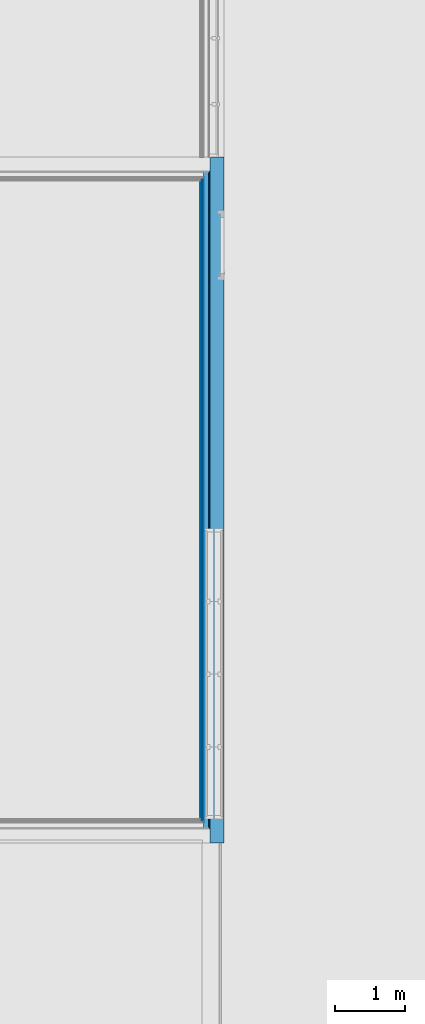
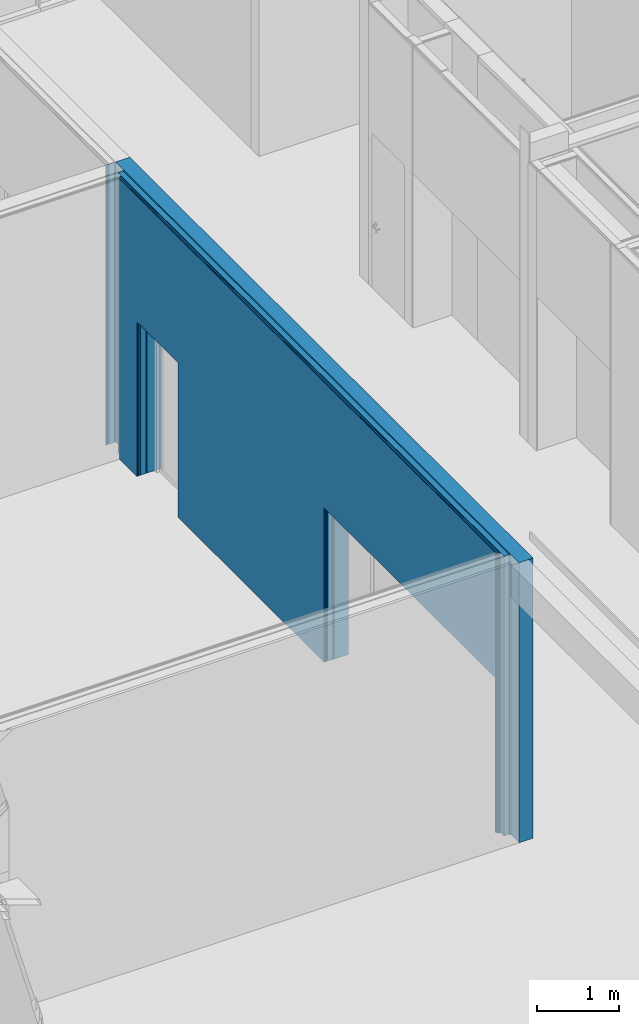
# One storey, part 170 of 260: 7 building element parts, 2 openings, 1 element without a shape of its own.
"""IFC2X3 building model written with IfcOpenShell, lengths in millimetres."""

from ifc_helpers import new_model, entity, si_unit, converted_unit, derived_unit, money_unit, direction, frame, origin_with_axes, place, context, subcontext, project, spatial, faceted_brep, material, type_object, element, aggregate, save


model = new_model("IFC2X3")

# Units and contexts
model_context = context("Model", 3, precision=0.01, world=origin_with_axes(), true_north=direction((0.0, 1.0)))
body_context = subcontext(model_context, "Body", "Model", "MODEL_VIEW")
ifc_project = project(units=[si_unit("LENGTHUNIT", "METRE", prefix="MILLI"), si_unit("AREAUNIT", "SQUARE_METRE"), si_unit("VOLUMEUNIT", "CUBIC_METRE"), converted_unit("PLANEANGLEUNIT", "DEGREE", entity("IfcPlaneAngleMeasure", 0.0174532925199), si_unit("PLANEANGLEUNIT", "RADIAN"), dimensions=[0, 0, 0, 0, 0, 0, 0]), money_unit("EUR"), converted_unit("TIMEUNIT", "Year", entity("IfcTimeMeasure", 31556926.0), si_unit("TIMEUNIT", "SECOND"), dimensions=[0, 0, 1, 0, 0, 0, 0]), si_unit("MASSUNIT", "GRAM", prefix="KILO"), si_unit("THERMODYNAMICTEMPERATUREUNIT", "DEGREE_CELSIUS"), si_unit("LUMINOUSINTENSITYUNIT", "LUMEN"), si_unit("ENERGYUNIT", "JOULE", prefix="MEGA"), derived_unit("THERMALCONDUCTANCEUNIT", [(si_unit("POWERUNIT", "WATT"), 1), (si_unit("LENGTHUNIT", "METRE"), -1), (si_unit("THERMODYNAMICTEMPERATUREUNIT", "KELVIN"), -1)]), derived_unit("SPECIFICHEATCAPACITYUNIT", [(si_unit("ENERGYUNIT", "JOULE"), 1), (si_unit("MASSUNIT", "GRAM", prefix="KILO"), -1), (si_unit("THERMODYNAMICTEMPERATUREUNIT", "KELVIN"), -1)]), derived_unit("MASSDENSITYUNIT", [(si_unit("MASSUNIT", "GRAM", prefix="KILO"), 1), (si_unit("VOLUMEUNIT", "CUBIC_METRE"), -1)])], contexts=[model_context])

# Site, building, storey
site_placement = place(None, origin_with_axes())
site = spatial("IfcSite", under=ifc_project, at=site_placement, Name="Kolde pst 67a", CompositionType="ELEMENT")
building_placement = place(site_placement, origin_with_axes())
building = spatial("IfcBuilding", under=site, at=building_placement, Name="Riigigümnaasium", CompositionType="ELEMENT")
storey_placement = place(building_placement, origin_with_axes())
storey = spatial("IfcBuildingStorey", under=building, at=storey_placement, Name="1. korrus", CompositionType="ELEMENT", Elevation=0.0)

# Wall, openings, building element parts
wall_type = type_object("IfcWallType", Name="SS-CLT-20/1_vill+krohv 340", PredefinedType="NOTDEFINED")
wall_placement = place(storey_placement, frame((31890.0027795, 38359.9808267, 0.0), z_axis=(0.0, 0.0, 1.0), x_axis=(0.0, 1.0, 0.0)))
wall = element("IfcWall", 1, at=wall_placement, inside=storey, type_object=wall_type, Name="Sisesein")
opening_1_placement = place(wall_placement, frame((2425.50014588, 0.0, 0.0), z_axis=(0.0, 0.0, 1.0), x_axis=(1.0, 0.0, 0.0)))
element("IfcOpeningElement", 2, at=opening_1_placement, cuts=wall, Name="Ava", context=body_context, shape_type="Brep", body=[
    faceted_brep([(2084.49985412, 340.0, 0.0), (2084.49985412, 340.0, 2300.0), (2084.49985412, -680.0, 2300.0), (2084.49985412, -680.0, 0.0), (-2084.49985412, 340.0, 0.0), (-2084.49985412, 340.0, 2300.0), (-2084.49985412, -680.0, 2300.0), (-2084.49985412, -680.0, 0.0)], [[[0, 1, 2, 3]], [[0, 4, 5, 1]], [[1, 5, 6, 2]], [[3, 2, 6, 7]], [[4, 0, 3, 7]], [[5, 4, 7, 6]]]),
])
opening_2_placement = place(wall_placement, frame((8574.9996972, 0.0, 0.0), z_axis=(0.0, 0.0, 1.0), x_axis=(1.0, 0.0, 0.0)))
element("IfcOpeningElement", 3, at=opening_2_placement, cuts=wall, Name="Siseuks", context=body_context, shape_type="Brep", body=[
    faceted_brep([(500.0, -680.0, 2300.0), (500.0, -680.0, 0.0), (500.0, 340.0, 0.0), (500.0, 340.0, 2300.0), (-500.0, -680.0, 2300.0), (-500.0, -680.0, 0.0), (-500.0, 340.0, 0.0), (-500.0, 340.0, 2300.0)], [[[0, 1, 2, 3]], [[0, 4, 5, 1]], [[1, 5, 6, 2]], [[3, 2, 6, 7]], [[4, 0, 3, 7]], [[5, 4, 7, 6]]]),
])
ifc_material_1 = material(Name="_VIIMISTLUSKIHT - viimistlus vastavalt SA osale")
building_element_part_1_placement = place(wall_placement, origin_with_axes())
building_element_part_1 = element("IfcBuildingElementPart", 4, at=building_element_part_1_placement, material=ifc_material_1, Name="_VIIMISTLUSKIHT - viimistlus vastavalt SA osale", context=body_context, shape_type="Brep", body=[
    faceted_brep([(8074.9996972, 330.0, 0.0), (8074.9996972, 330.0, 2300.0), (9074.9996972, 330.0, 2300.0), (9074.9996972, 330.0, 0.0), (9509.9996972, 330.0, 0.0), (9509.9996972, 330.0, 4170.0), (330.0, 330.0, 4170.0), (330.0, 330.0, 0.0), (341.000291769, 330.0, 0.0), (341.000291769, 330.0, 2300.0), (4510.0, 330.0, 2300.0), (4510.0, 330.0, 0.0), (8074.9996972, 340.0, 0.0), (8074.9996972, 340.0, 2300.0), (9074.9996972, 340.0, 2300.0), (9074.9996972, 340.0, 0.0), (9509.9996972, 340.0, 0.0), (9509.9996972, 340.0, 4170.0), (330.0, 340.0, 4170.0), (330.0, 340.0, 0.0), (341.000291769, 340.0, 0.0), (341.000291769, 340.0, 2300.0), (4510.0, 340.0, 2300.0), (4510.0, 340.0, 0.0)], [[[0, 1, 2, 3, 4, 5, 6, 7, 8, 9, 10, 11]], [[1, 0, 12, 13]], [[2, 1, 13, 14]], [[3, 2, 14, 15]], [[3, 15, 16, 4]], [[4, 16, 17, 5]], [[17, 18, 6, 5]], [[19, 7, 6, 18]], [[8, 7, 19, 20]], [[8, 20, 21, 9]], [[9, 21, 22, 10]], [[10, 22, 23, 11]], [[12, 0, 11, 23]], [[13, 12, 23, 22, 21, 20, 19, 18, 17, 16, 15, 14]]]),
    faceted_brep([(9841.46945648, 340.0, 4170.0), (9841.46945648, 330.0, 4170.0), (9841.46945648, 330.0, 0.0), (9841.46945648, 340.0, 0.0), (9839.9996972, 330.0, 4170.0), (9839.9996972, 340.0, 4170.0), (9839.9996972, 330.0, 0.0), (9839.9996972, 340.0, 0.0)], [[[0, 1, 2, 3]], [[4, 1, 0, 5]], [[1, 4, 6, 2]], [[2, 6, 7, 3]], [[5, 0, 3, 7]], [[4, 5, 7, 6]]]),
])
ifc_material_2 = material(Name="_PLAATMATERJAL - tuletõkkekipsplaat, Knauf Red GKF või samaväärne")
building_element_part_2_placement = place(wall_placement, origin_with_axes())
building_element_part_2 = element("IfcBuildingElementPart", 5, at=building_element_part_2_placement, material=ifc_material_2, Name="_PLAATMATERJAL - tuletõkkekipsplaat, Knauf Red GKF või samaväärne", context=body_context, shape_type="Brep", body=[
    faceted_brep([(8074.9996972, 315.0, 0.0), (8074.9996972, 315.0, 2300.0), (9074.9996972, 315.0, 2300.0), (9074.9996972, 315.0, 0.0), (9524.9996972, 315.0, 0.0), (9524.9996972, 315.0, 4170.0), (315.0, 315.0, 4170.0), (315.0, 315.0, 0.0), (341.000291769, 315.0, 0.0), (341.000291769, 315.0, 2300.0), (4510.0, 315.0, 2300.0), (4510.0, 315.0, 0.0), (8074.9996972, 330.0, 0.0), (8074.9996972, 330.0, 2300.0), (9074.9996972, 330.0, 2300.0), (9074.9996972, 330.0, 0.0), (9524.9996972, 330.0, 0.0), (9524.9996972, 330.0, 4170.0), (315.0, 330.0, 4170.0), (315.0, 330.0, 0.0), (341.000291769, 330.0, 0.0), (341.000291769, 330.0, 2300.0), (4510.0, 330.0, 2300.0), (4510.0, 330.0, 0.0)], [[[0, 1, 2, 3, 4, 5, 6, 7, 8, 9, 10, 11]], [[1, 0, 12, 13]], [[2, 1, 13, 14]], [[3, 2, 14, 15]], [[3, 15, 16, 4]], [[4, 16, 17, 5]], [[17, 18, 6, 5]], [[19, 7, 6, 18]], [[8, 7, 19, 20]], [[8, 20, 21, 9]], [[9, 21, 22, 10]], [[10, 22, 23, 11]], [[12, 0, 11, 23]], [[13, 12, 23, 22, 21, 20, 19, 18, 17, 16, 15, 14]]]),
    faceted_brep([(9841.46945648, 330.0, 4170.0), (9841.46945648, 315.0, 4170.0), (9841.46945648, 315.0, 0.0), (9841.46945648, 330.0, 0.0), (9839.9996972, 315.0, 4170.0), (9839.9996972, 330.0, 4170.0), (9839.9996972, 315.0, 0.0), (9839.9996972, 330.0, 0.0)], [[[0, 1, 2, 3]], [[4, 1, 0, 5]], [[1, 4, 6, 2]], [[2, 6, 7, 3]], [[5, 0, 3, 7]], [[4, 5, 7, 6]]]),
])
building_element_part_3_placement = place(wall_placement, origin_with_axes())
building_element_part_3 = element("IfcBuildingElementPart", 6, at=building_element_part_3_placement, material=ifc_material_2, Name="_PLAATMATERJAL - tuletõkkekipsplaat, Knauf Red GKF või samaväärne", context=body_context, shape_type="Brep", body=[
    faceted_brep([(8074.9996972, 300.0, 0.0), (8074.9996972, 300.0, 2300.0), (9074.9996972, 300.0, 2300.0), (9074.9996972, 300.0, 0.0), (9539.9996972, 300.0, 0.0), (9539.9996972, 300.0, 4170.0), (300.0, 300.0, 4170.0), (300.0, 300.0, 0.0), (341.000291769, 300.0, 0.0), (341.000291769, 300.0, 2300.0), (4510.0, 300.0, 2300.0), (4510.0, 300.0, 0.0), (8074.9996972, 315.0, 0.0), (8074.9996972, 315.0, 2300.0), (9074.9996972, 315.0, 2300.0), (9074.9996972, 315.0, 0.0), (9539.9996972, 315.0, 0.0), (9539.9996972, 315.0, 4170.0), (300.0, 315.0, 4170.0), (300.0, 315.0, 0.0), (341.000291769, 315.0, 0.0), (341.000291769, 315.0, 2300.0), (4510.0, 315.0, 2300.0), (4510.0, 315.0, 0.0)], [[[0, 1, 2, 3, 4, 5, 6, 7, 8, 9, 10, 11]], [[1, 0, 12, 13]], [[2, 1, 13, 14]], [[3, 2, 14, 15]], [[3, 15, 16, 4]], [[4, 16, 17, 5]], [[17, 18, 6, 5]], [[19, 7, 6, 18]], [[8, 7, 19, 20]], [[8, 20, 21, 9]], [[9, 21, 22, 10]], [[10, 22, 23, 11]], [[12, 0, 11, 23]], [[13, 12, 23, 22, 21, 20, 19, 18, 17, 16, 15, 14]]]),
    faceted_brep([(9841.46945648, 315.0, 4170.0), (9841.46945648, 300.0, 4170.0), (9841.46945648, 300.0, 0.0), (9841.46945648, 315.0, 0.0), (9839.9996972, 300.0, 4170.0), (9839.9996972, 315.0, 4170.0), (9839.9996972, 300.0, 0.0), (9839.9996972, 315.0, 0.0)], [[[0, 1, 2, 3]], [[4, 1, 0, 5]], [[1, 4, 6, 2]], [[2, 6, 7, 3]], [[5, 0, 3, 7]], [[4, 5, 7, 6]]]),
])
ifc_material_3 = material(Name="_PLAATMATERJAL - OSB3 plaat")
building_element_part_4_placement = place(wall_placement, origin_with_axes())
building_element_part_4 = element("IfcBuildingElementPart", 7, at=building_element_part_4_placement, material=ifc_material_3, Name="_PLAATMATERJAL - OSB3 plaat", context=body_context, shape_type="Brep", body=[
    faceted_brep([(8074.9996972, 290.0, 0.0), (8074.9996972, 290.0, 2300.0), (9074.9996972, 290.0, 2300.0), (9074.9996972, 290.0, 0.0), (9549.9996972, 290.0, 0.0), (9549.9996972, 290.0, 4170.0), (290.0, 290.0, 4170.0), (290.0, 290.0, 0.0), (341.000291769, 290.0, 0.0), (341.000291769, 290.0, 2300.0), (4510.0, 290.0, 2300.0), (4510.0, 290.0, 0.0), (8074.9996972, 300.0, 0.0), (8074.9996972, 300.0, 2300.0), (9074.9996972, 300.0, 2300.0), (9074.9996972, 300.0, 0.0), (9549.9996972, 300.0, 0.0), (9549.9996972, 300.0, 4170.0), (290.0, 300.0, 4170.0), (290.0, 300.0, 0.0), (341.000291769, 300.0, 0.0), (341.000291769, 300.0, 2300.0), (4510.0, 300.0, 2300.0), (4510.0, 300.0, 0.0)], [[[0, 1, 2, 3, 4, 5, 6, 7, 8, 9, 10, 11]], [[1, 0, 12, 13]], [[2, 1, 13, 14]], [[3, 2, 14, 15]], [[3, 15, 16, 4]], [[4, 16, 17, 5]], [[17, 18, 6, 5]], [[19, 7, 6, 18]], [[8, 7, 19, 20]], [[8, 20, 21, 9]], [[9, 21, 22, 10]], [[10, 22, 23, 11]], [[12, 0, 11, 23]], [[13, 12, 23, 22, 21, 20, 19, 18, 17, 16, 15, 14]]]),
    faceted_brep([(9841.46945648, 300.0, 4170.0), (9841.46945648, 290.0, 4170.0), (9841.46945648, 290.0, 0.0), (9841.46945648, 300.0, 0.0), (9839.9996972, 290.0, 4170.0), (9839.9996972, 300.0, 4170.0), (9839.9996972, 290.0, 0.0), (9839.9996972, 300.0, 0.0)], [[[0, 1, 2, 3]], [[4, 1, 0, 5]], [[1, 4, 6, 2]], [[2, 6, 7, 3]], [[5, 0, 3, 7]], [[4, 5, 7, 6]]]),
])
ifc_material_4 = material(Name="_KARKASS - metallkarkass CW 75/50/06 ja UW 75/40/06, samm 600, vahel mineraalvill, helineeldetegur αw = 1.0,  ISOVER ACOUSTIC 75mm või samaväärne")
building_element_part_5_placement = place(wall_placement, origin_with_axes())
building_element_part_5 = element("IfcBuildingElementPart", 8, at=building_element_part_5_placement, material=ifc_material_4, Name="_KARKASS - metallkarkass CW 75/50/06 ja UW 75/40/06, samm 600, vahel mineraalvill, helineeldetegur αw = 1.0,  ISOVER ACOUSTIC 75mm või samaväärne", context=body_context, shape_type="Brep", body=[
    faceted_brep([(8074.9996972, 215.0, 0.0), (8074.9996972, 215.0, 2300.0), (9074.9996972, 215.0, 2300.0), (9074.9996972, 215.0, 0.0), (9624.9996972, 215.0, 0.0), (9624.9996972, 215.0, 4170.0), (215.0, 215.0, 4170.0), (215.0, 215.0, 0.0), (341.000291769, 215.0, 0.0), (341.000291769, 215.0, 2300.0), (4510.0, 215.0, 2300.0), (4510.0, 215.0, 0.0), (8074.9996972, 290.0, 0.0), (8074.9996972, 290.0, 2300.0), (9074.9996972, 290.0, 2300.0), (9074.9996972, 290.0, 0.0), (9624.9996972, 290.0, 0.0), (9624.9996972, 290.0, 4170.0), (215.0, 290.0, 4170.0), (215.0, 290.0, 0.0), (341.000291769, 290.0, 0.0), (341.000291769, 290.0, 2300.0), (4510.0, 290.0, 2300.0), (4510.0, 290.0, 0.0)], [[[0, 1, 2, 3, 4, 5, 6, 7, 8, 9, 10, 11]], [[1, 0, 12, 13]], [[2, 1, 13, 14]], [[3, 2, 14, 15]], [[3, 15, 16, 4]], [[4, 16, 17, 5]], [[17, 18, 6, 5]], [[19, 7, 6, 18]], [[8, 7, 19, 20]], [[8, 20, 21, 9]], [[9, 21, 22, 10]], [[10, 22, 23, 11]], [[12, 0, 11, 23]], [[13, 12, 23, 22, 21, 20, 19, 18, 17, 16, 15, 14]]]),
    faceted_brep([(9841.46945648, 290.0, 4170.0), (9841.46945648, 215.0, 4170.0), (9841.46945648, 215.0, 0.0), (9841.46945648, 290.0, 0.0), (9839.9996972, 215.0, 4170.0), (9839.9996972, 290.0, 4170.0), (9839.9996972, 215.0, 0.0), (9839.9996972, 290.0, 0.0)], [[[0, 1, 2, 3]], [[4, 1, 0, 5]], [[1, 4, 6, 2]], [[2, 6, 7, 3]], [[5, 0, 3, 7]], [[4, 5, 7, 6]]]),
])
ifc_material_5 = material(Name="_ÕHKVAHE")
building_element_part_6_placement = place(wall_placement, origin_with_axes())
building_element_part_6 = element("IfcBuildingElementPart", 9, at=building_element_part_6_placement, material=ifc_material_5, Name="_ÕHKVAHE", context=body_context, shape_type="Brep", body=[
    faceted_brep([(8074.9996972, 200.0, 0.0), (8074.9996972, 200.0, 2300.0), (9074.9996972, 200.0, 2300.0), (9074.9996972, 200.0, 0.0), (9639.9996972, 200.0, 0.0), (9639.9996972, 200.0, 4170.0), (200.0, 200.0, 4170.0), (200.0, 200.0, 0.0), (341.000291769, 200.0, 0.0), (341.000291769, 200.0, 2300.0), (4510.0, 200.0, 2300.0), (4510.0, 200.0, 0.0), (8074.9996972, 215.0, 0.0), (8074.9996972, 215.0, 2300.0), (9074.9996972, 215.0, 2300.0), (9074.9996972, 215.0, 0.0), (9639.9996972, 215.0, 0.0), (9639.9996972, 215.0, 4170.0), (200.0, 215.0, 4170.0), (200.0, 215.0, 0.0), (341.000291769, 215.0, 0.0), (341.000291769, 215.0, 2300.0), (4510.0, 215.0, 2300.0), (4510.0, 215.0, 0.0)], [[[0, 1, 2, 3, 4, 5, 6, 7, 8, 9, 10, 11]], [[1, 0, 12, 13]], [[2, 1, 13, 14]], [[3, 2, 14, 15]], [[3, 15, 16, 4]], [[4, 16, 17, 5]], [[17, 18, 6, 5]], [[19, 7, 6, 18]], [[8, 7, 19, 20]], [[8, 20, 21, 9]], [[9, 21, 22, 10]], [[10, 22, 23, 11]], [[12, 0, 11, 23]], [[13, 12, 23, 22, 21, 20, 19, 18, 17, 16, 15, 14]]]),
    faceted_brep([(9841.46945648, 215.0, 4170.0), (9841.46945648, 200.0, 4170.0), (9841.46945648, 200.0, 0.0), (9841.46945648, 215.0, 0.0), (9839.9996972, 200.0, 4170.0), (9839.9996972, 215.0, 4170.0), (9839.9996972, 200.0, 0.0), (9839.9996972, 215.0, 0.0)], [[[0, 1, 2, 3]], [[4, 1, 0, 5]], [[1, 4, 6, 2]], [[2, 6, 7, 3]], [[5, 0, 3, 7]], [[4, 5, 7, 6]]]),
])
ifc_material_6 = material(Name="_KANDETARIND - CLT ristkihtliimpuit vastavalt EK osale, CLT paigaldusvuugid teibitakse ROTHOBLAAS teibiga")
building_element_part_7_placement = place(wall_placement, origin_with_axes())
building_element_part_7 = element("IfcBuildingElementPart", 10, at=building_element_part_7_placement, material=ifc_material_6, Name="_KANDETARIND - CLT ristkihtliimpuit vastavalt EK osale, CLT paigaldusvuugid teibitakse ROTHOBLAAS teibiga", context=body_context, shape_type="Brep", body=[
    faceted_brep([(8074.9996972, 0.0, 0.0), (8074.9996972, 0.0, 2300.0), (9074.9996972, 0.0, 2300.0), (9074.9996972, 0.0, 0.0), (9841.46945648, 0.0, 0.0), (9841.46945648, 0.0, 4170.0), (9680.00000411, 0.0, 4170.0), (0.0, 0.0, 4170.0), (0.0, 0.0, 0.0), (341.000291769, 0.0, 0.0), (341.000291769, 0.0, 2300.0), (4510.0, 0.0, 2300.0), (4510.0, 0.0, 0.0), (8074.9996972, 200.0, 0.0), (8074.9996972, 200.0, 2300.0), (9074.9996972, 200.0, 2300.0), (9074.9996972, 200.0, 0.0), (9841.46945648, 200.0, 0.0), (9841.46945648, 200.0, 4170.0), (0.0, 200.0, 4170.0), (0.0, 200.0, 0.0), (341.000291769, 200.0, 0.0), (341.000291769, 200.0, 2300.0), (4510.0, 200.0, 2300.0), (4510.0, 200.0, 0.0)], [[[0, 1, 2, 3, 4, 5, 6, 7, 8, 9, 10, 11, 12]], [[1, 0, 13, 14]], [[2, 1, 14, 15]], [[3, 2, 15, 16]], [[3, 16, 17, 4]], [[4, 17, 18, 5]], [[5, 18, 19, 7, 6]], [[20, 8, 7, 19]], [[9, 8, 20, 21]], [[9, 21, 22, 10]], [[10, 22, 23, 11]], [[11, 23, 24, 12]], [[13, 0, 12, 24]], [[14, 13, 24, 23, 22, 21, 20, 19, 18, 17, 16, 15]]]),
])
aggregate(wall, [building_element_part_1, building_element_part_2, building_element_part_3, building_element_part_4, building_element_part_5, building_element_part_6, building_element_part_7])

save(model, "model.ifc")
